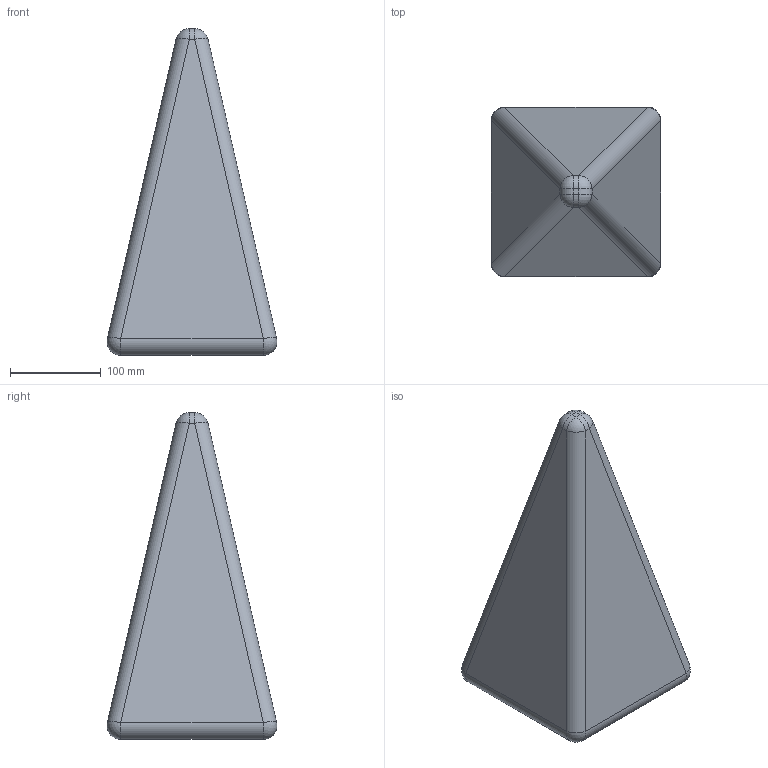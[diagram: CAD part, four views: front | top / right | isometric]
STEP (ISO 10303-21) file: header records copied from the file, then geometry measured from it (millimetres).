
FILE_DESCRIPTION(/* description */ (''),/* implementation_level */ '2;1');
FILE_NAME(/* name */ 'C:/Users/LukasGröber/GMS Cloud/Groeber Mannheim Lichtwerke - Dokumente/Marketing/Produkte/3D Daten/Pyramide Sahara/Pyramie Sahara 36.step',/* time_stamp */ '2022-07-08T13:20:58+02:00',/* author */ (''),/* organization */ (''),/* preprocessor_version */ 'ST-DEVELOPER v19',/* originating_system */ 'Autodesk Translation Framework v11.7.0.108',/* authorisation */ '');
FILE_SCHEMA (('AUTOMOTIVE_DESIGN { 1 0 10303 214 3 1 1 }'));
Length unit declared in the file: millimetre
Products named in the file (1): Pyramie Sahara 36
Bounding box: 187.29 x 187.29 x 360 mm (x, y, z)
Volume: 5247418.3 mm3; surface area: 187396.7 mm2
Topology: 1 solids, 1 shells, 26 faces, 48 edges, 24 vertices
Faces by surface type: cylinder 12, sphere 8, plane 6
Entity records: 664 total; most frequent: DIRECTION 126, CARTESIAN_POINT 99, ORIENTED_EDGE 96, AXIS2_PLACEMENT_3D 51, EDGE_CURVE 48, FACE_OUTER_BOUND 26, EDGE_LOOP 26, ADVANCED_FACE 26
